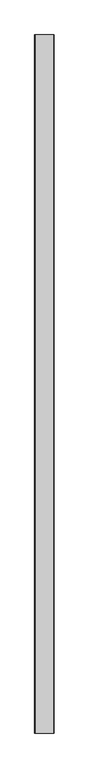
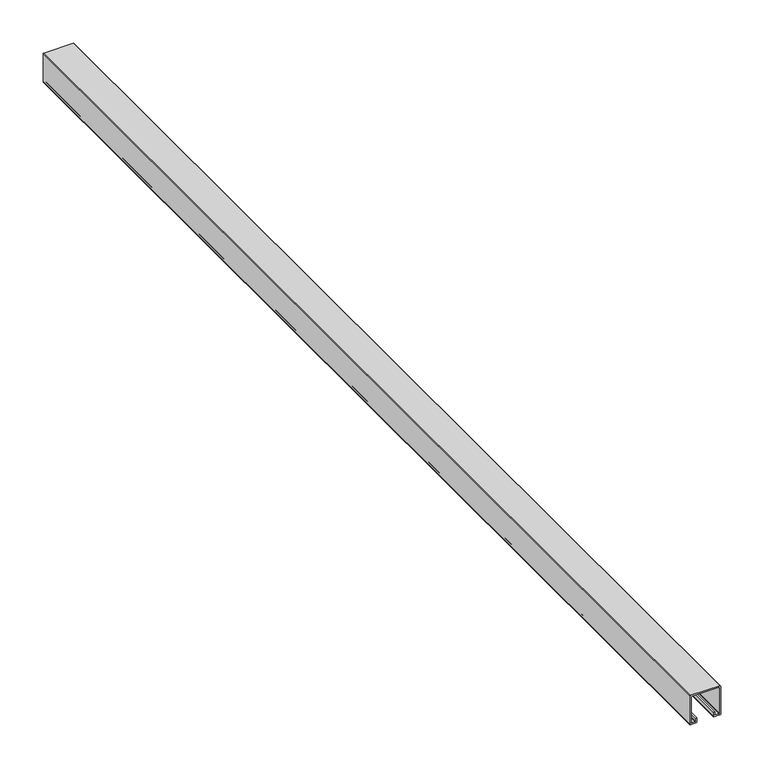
"""IFC4 building model written with IfcOpenShell, lengths in millimetres: proxy geometry, instalación_stratus 12.3dm."""

from ifc_helpers import new_model, si_unit, point, frame, frame_2d, origin, place, context, project, spatial, polyline, circle_curve, trimmed, segment, composite_curve, outline, extrude, source, transform, mapped, element, save


def generic_models_5601667a(model_context):
    return source(origin(), model_context, "Body", "SweptSolid", [
        extrude(outline(composite_curve([segment(polyline([(-38.8, 917.975), (-35.2, 917.975)]), True, "CONTINUOUS"), segment(trimmed(circle_curve(frame_2d((-35.2, 916.975)), 1.0), [point((-35.2, 917.975))], [point((-35.2, 915.975))], False, "CARTESIAN"), True, "CONTINUOUS"), segment(polyline([(-35.2, 915.975), (-40.3, 915.975)]), True, "CONTINUOUS"), segment(trimmed(circle_curve(frame_2d((-40.3, 916.975)), 1.0), [point((-40.3, 915.975))], [point((-41.3, 916.975))], False, "CARTESIAN"), True, "CONTINUOUS"), segment(polyline([(-41.3, 916.975), (-41.3, 924.525)]), True, "CONTINUOUS"), segment(trimmed(circle_curve(frame_2d((-40.3, 924.525)), 1.0), [point((-41.3, 924.525))], [point((-40.3, 925.525))], False, "CARTESIAN"), True, "CONTINUOUS"), segment(polyline([(-40.3, 925.525), (-1.0, 925.525)]), True, "CONTINUOUS"), segment(trimmed(circle_curve(frame_2d((-1.0, 924.525)), 1.0), [point((-1.0, 925.525))], [point((0.0, 924.525))], False, "CARTESIAN"), True, "CONTINUOUS"), segment(polyline([(0.0, 924.525), (0.0, 885.225)]), True, "CONTINUOUS"), segment(trimmed(circle_curve(frame_2d((-1.0, 885.225)), 1.0), [point((0.0, 885.225))], [point((-1.0, 884.225))], False, "CARTESIAN"), True, "CONTINUOUS"), segment(polyline([(-1.0, 884.225), (-40.3, 884.225)]), True, "CONTINUOUS"), segment(trimmed(circle_curve(frame_2d((-40.3, 885.225)), 1.0), [point((-40.3, 884.225))], [point((-41.3, 885.225))], False, "CARTESIAN"), True, "CONTINUOUS"), segment(polyline([(-41.3, 885.225), (-41.3, 892.775)]), True, "CONTINUOUS"), segment(trimmed(circle_curve(frame_2d((-40.3, 892.775)), 1.0), [point((-41.3, 892.775))], [point((-40.3, 893.775))], False, "CARTESIAN"), True, "CONTINUOUS"), segment(polyline([(-40.3, 893.775), (-35.2, 893.775)]), True, "CONTINUOUS"), segment(trimmed(circle_curve(frame_2d((-35.2, 892.775)), 1.0), [point((-35.2, 893.775))], [point((-35.2, 891.775))], False, "CARTESIAN"), True, "CONTINUOUS"), segment(polyline([(-35.2, 891.775), (-38.8, 891.775)]), True, "CONTINUOUS"), segment(trimmed(circle_curve(frame_2d((-38.8, 891.275)), 0.5), [point((-38.8, 891.775))], [point((-39.3, 891.275))], True, "CARTESIAN"), True, "CONTINUOUS"), segment(polyline([(-39.3, 891.275), (-39.3, 886.725)]), True, "CONTINUOUS"), segment(trimmed(circle_curve(frame_2d((-38.8, 886.725)), 0.5), [point((-39.3, 886.725))], [point((-38.8, 886.225))], True, "CARTESIAN"), True, "CONTINUOUS"), segment(polyline([(-38.8, 886.225), (-2.5, 886.225)]), True, "CONTINUOUS"), segment(trimmed(circle_curve(frame_2d((-2.5, 886.725)), 0.5), [point((-2.5, 886.225))], [point((-2.0, 886.725))], True, "CARTESIAN"), True, "CONTINUOUS"), segment(polyline([(-2.0, 886.725), (-2.0, 923.025)]), True, "CONTINUOUS"), segment(trimmed(circle_curve(frame_2d((-2.5, 923.025)), 0.5), [point((-2.0, 923.025))], [point((-2.5, 923.525))], True, "CARTESIAN"), True, "CONTINUOUS"), segment(polyline([(-2.5, 923.525), (-38.8, 923.525)]), True, "CONTINUOUS"), segment(trimmed(circle_curve(frame_2d((-38.8, 923.025)), 0.5), [point((-38.8, 923.525))], [point((-39.3, 923.025))], True, "CARTESIAN"), True, "CONTINUOUS"), segment(polyline([(-39.3, 923.025), (-39.3, 918.475)]), True, "CONTINUOUS"), segment(trimmed(circle_curve(frame_2d((-38.8, 918.475)), 0.5), [point((-39.3, 918.475))], [point((-38.8, 917.975))], True, "CARTESIAN"), True, "CONTINUOUS")], self_intersect=False)), frame((0.0, 0.0, 0.0), z_axis=(0.0, 1.0, 0.0), x_axis=(0.0, 0.0, 1.0)), (0.0, 0.0, 1.0), 1498.6),
    ])


if __name__ == "__main__":
    model = new_model("IFC4")
    model_context = context("Model", 3, world=origin())
    ifc_project = project(units=[si_unit("LENGTHUNIT", "METRE", prefix="MILLI")], contexts=[model_context])
    site = spatial("IfcSite", under=ifc_project)
    building = spatial("IfcBuilding", under=site)
    placement = place(None, origin())
    generic_models_shape = generic_models_5601667a(model_context)
    element("IfcBuildingElementProxy", 1, Name="instalación_stratus 12.3dm", ObjectType="instalación_stratus 12.3dm", at=placement, inside=building, context=model_context, shape_type="MappedRepresentation", body=[
        mapped(generic_models_shape, transform((0.0, 0.0, 0.0), x_axis=(1.0, 0.0, 0.0), y_axis=(0.0, 1.0, 0.0), z_axis=(0.0, 0.0, 1.0))),
    ])
    save(model, "model.ifc")
